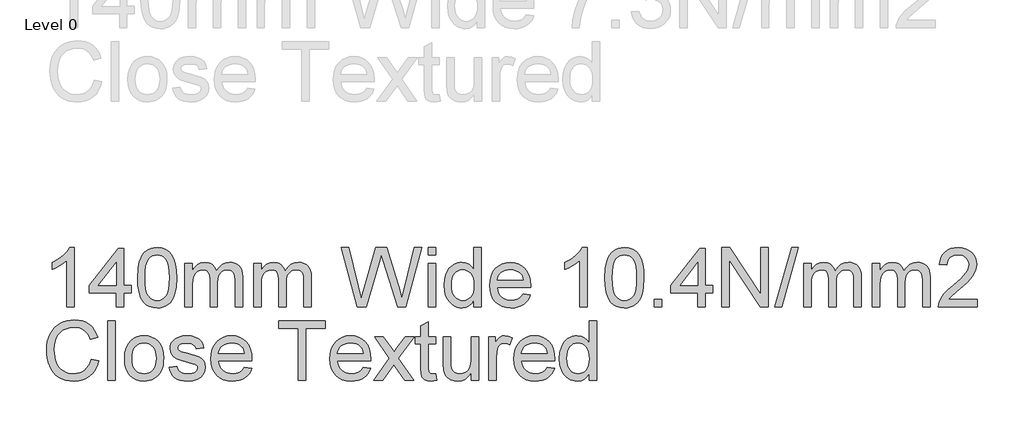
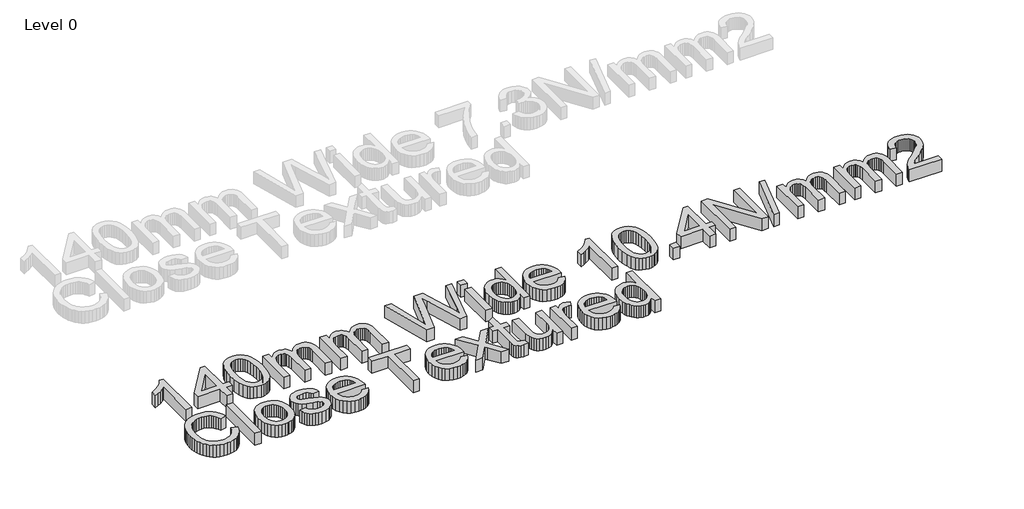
# One storey, part 8 of 14: 1 proxy.
"""IFC4 building model written with IfcOpenShell, lengths in millimetres."""

from ifc_helpers import new_model, si_unit, origin, origin_with_axes, place, context, project, spatial, polyline, outline, extrude, element, save

model = new_model("IFC4")

# Units and contexts
model_context = context("Model", 3, world=origin())
ifc_project = project(units=[si_unit("LENGTHUNIT", "METRE", prefix="MILLI")], contexts=[model_context])

# Site, building, storey
site = spatial("IfcSite", under=ifc_project)
building = spatial("IfcBuilding", under=site)
storey = spatial("IfcBuildingStorey", under=building, Name="Level 0", Elevation=0.0)

# Proxy
placement = place(None, origin())
element("IfcBuildingElementProxy", 1, Name="600mm Arial", ObjectType="600mm Arial", at=placement, inside=storey, context=model_context, shape_type="SweptSolid", body=[
    extrude(outline(polyline([(-13562.7740855, 11585.9110695), (-13636.6202394, 11585.9110695), (-13636.6202394, 12046.2956849), (-13667.4495663, 12021.3617907), (-13706.5721625, 11996.4639541), (-13747.641874, 11974.7031368), (-13784.3125471, 11959.1803003), (-13784.3125471, 12028.9879926), (-13726.313749, 12060.5384734), (-13676.0673548, 12098.0745311), (-13636.4579798, 12137.9903964), (-13610.3702394, 12176.6803003), (-13562.7740855, 12176.6803003), (-13562.7740855, 11585.9110695)])), origin_with_axes(), (0.0, 0.0, 1.0), 150.0),
    extrude(outline(polyline([(-13147.3894701, 11585.9110695), (-13147.3894701, 11724.372608), (-13415.0817778, 11724.372608), (-13415.0817778, 11798.2187618), (-13128.9279317, 12167.4495311), (-13073.5433163, 12167.4495311), (-13073.5433163, 11798.2187618), (-12999.6971625, 11798.2187618), (-12999.6971625, 11724.372608), (-13073.5433163, 11724.372608), (-13073.5433163, 11585.9110695), (-13147.3894701, 11585.9110695)]), holes=[polyline([(-13147.3894701, 11798.2187618), (-13147.3894701, 12026.3918387), (-13324.2163932, 11798.2187618), (-13147.3894701, 11798.2187618)])]), origin_with_axes(), (0.0, 0.0, 1.0), 150.0),
    extrude(outline(polyline([(-12935.0817778, 11876.5360695), (-12929.6550951, 11971.0973676), (-12922.8717418, 12011.1980286), (-12913.3750471, 12046.5120311), (-12901.2055759, 12077.3278363), (-12886.4038932, 12103.9339061), (-12868.969999, 12126.3302402), (-12848.9038932, 12144.5168387), (-12826.1379677, 12158.5883532), (-12800.6046144, 12168.6394349), (-12772.3038331, 12174.6700839), (-12741.235624, 12176.6803003), (-12695.7308163, 12171.9206849), (-12654.985624, 12157.6418387), (-12620.9111048, 12134.4026561), (-12595.4183163, 12102.7620311), (-12576.1635086, 12062.9903964), (-12560.8029317, 12015.3581849), (-12550.7428355, 11954.8714061), (-12547.3894701, 11876.5360695), (-12552.7620663, 11782.5156368), (-12559.4778115, 11742.5501921), (-12568.8798548, 11707.2812618), (-12580.9546745, 11676.4519349), (-12595.688749, 11649.8053003), (-12613.0820783, 11627.341358), (-12633.1346625, 11609.060108), (-12655.9276312, 11594.8939421), (-12681.5421144, 11584.7752522), (-12709.978112, 11578.7040383), (-12741.235624, 11576.6803003), (-12781.9087009, 11580.1959253), (-12817.9663932, 11590.7428003), (-12849.4087009, 11608.3209253), (-12876.235624, 11632.9303003), (-12901.9808163, 11677.4164782), (-12920.3702394, 11732.8461657), (-12931.4038932, 11799.2193628), (-12935.0817778, 11876.5360695)]), holes=[polyline([(-12861.235624, 11876.6803003), (-12859.0721625, 11812.4840863), (-12852.5817778, 11760.5204445), (-12841.7644701, 11720.7893748), (-12826.6202394, 11693.2908772), (-12808.3029317, 11674.5814421), (-12787.9663932, 11661.2175599), (-12765.610624, 11653.1992306), (-12741.235624, 11650.5264541), (-12716.860624, 11653.208245), (-12694.5048548, 11661.2536176), (-12674.1683163, 11674.6625719), (-12655.8510086, 11693.435108), (-12640.7067778, 11720.9786777), (-12629.8894701, 11760.700733), (-12623.3990855, 11812.6012738), (-12621.235624, 11876.6803003), (-12623.3269701, 11939.1772955), (-12629.6010086, 11990.2259734), (-12640.0577394, 12029.8263339), (-12654.6971625, 12057.9783772), (-12672.7079798, 12077.6027762), (-12693.2788932, 12091.6202041), (-12716.4099028, 12100.0306609), (-12742.1010086, 12102.8341464), (-12766.3498067, 12100.3641945), (-12788.3269701, 12092.9543387), (-12808.032499, 12080.6045791), (-12825.4663932, 12063.3149157), (-12841.1154317, 12032.6658772), (-12852.2933163, 11991.3437618), (-12859.0000471, 11939.3485695), (-12861.235624, 11876.6803003)])]), origin_with_axes(), (0.0, 0.0, 1.0), 150.0),
    extrude(outline(polyline([(-12464.3125471, 11585.9110695), (-12464.3125471, 12019.7572234), (-12390.4663932, 12019.7572234), (-12390.4663932, 11948.3629926), (-12368.2548548, 11981.1574637), (-12339.6971625, 12006.8485695), (-12305.766874, 12023.4531368), (-12267.4375471, 12028.9879926), (-12226.3678355, 12023.3449637), (-12208.8888692, 12016.2911777), (-12193.4471625, 12006.4158772), (-12168.8558163, 11979.3185214), (-12152.7740855, 11943.1706849), (-12125.8570182, 11980.715757), (-12095.1538932, 12007.5336657), (-12060.6647105, 12023.6244109), (-12022.3894701, 12028.9879926), (-11992.8266697, 12026.7569229), (-11966.8786528, 12020.0637137), (-11944.5454197, 12008.9083652), (-11925.8269701, 11993.2908772), (-11911.0297947, 11973.0309613), (-11900.4603836, 11947.9483291), (-11894.118737, 11918.0429806), (-11892.0048548, 11883.3149157), (-11892.0048548, 11585.9110695), (-11965.8510086, 11585.9110695), (-11965.8510086, 11851.5841464), (-11967.563749, 11888.4170791), (-11972.7019701, 11913.2428003), (-11982.329374, 11930.2440022), (-11997.5096625, 11943.6033772), (-12017.0349028, 11952.2572234), (-12039.6971625, 11955.1418387), (-12060.6241456, 11953.293882), (-12079.7031721, 11947.7500118), (-12096.9342418, 11938.5102282), (-12112.3173548, 11925.5745311), (-12124.9690976, 11908.5643147), (-12134.0060567, 11887.1009734), (-12139.4282322, 11861.184507), (-12141.235624, 11830.8149157), (-12141.235624, 11585.9110695), (-12215.0817778, 11585.9110695), (-12215.0817778, 11859.8053003), (-12219.3546144, 11901.560108), (-12232.173124, 11931.3437618), (-12242.0844822, 11941.7554205), (-12254.7272105, 11949.1923195), (-12270.1013091, 11953.6544589), (-12288.2067778, 11955.1418387), (-12316.6562971, 11951.1754926), (-12342.8702394, 11939.2764541), (-12364.5048548, 11919.7331849), (-12379.2163932, 11892.8341464), (-12387.6538932, 11855.5144349), (-12390.4663932, 11804.7091464), (-12390.4663932, 11585.9110695), (-12464.3125471, 11585.9110695)])), origin_with_axes(), (0.0, 0.0, 1.0), 150.0),
    extrude(outline(polyline([(-11781.235624, 11585.9110695), (-11781.235624, 12019.7572234), (-11707.3894701, 12019.7572234), (-11707.3894701, 11948.3629926), (-11685.1779317, 11981.1574637), (-11656.6202394, 12006.8485695), (-11622.6899509, 12023.4531368), (-11584.360624, 12028.9879926), (-11543.2909125, 12023.3449637), (-11525.8119461, 12016.2911777), (-11510.3702394, 12006.4158772), (-11485.7788932, 11979.3185214), (-11469.6971625, 11943.1706849), (-11442.7800951, 11980.715757), (-11412.0769701, 12007.5336657), (-11377.5877875, 12023.6244109), (-11339.3125471, 12028.9879926), (-11309.7497466, 12026.7569229), (-11283.8017298, 12020.0637137), (-11261.4684966, 12008.9083652), (-11242.7500471, 11993.2908772), (-11227.9528716, 11973.0309613), (-11217.3834605, 11947.9483291), (-11211.0418139, 11918.0429806), (-11208.9279317, 11883.3149157), (-11208.9279317, 11585.9110695), (-11282.7740855, 11585.9110695), (-11282.7740855, 11851.5841464), (-11284.4868259, 11888.4170791), (-11289.6250471, 11913.2428003), (-11299.2524509, 11930.2440022), (-11314.4327394, 11943.6033772), (-11333.9579798, 11952.2572234), (-11356.6202394, 11955.1418387), (-11377.5472226, 11953.293882), (-11396.626249, 11947.7500118), (-11413.8573187, 11938.5102282), (-11429.2404317, 11925.5745311), (-11441.8921745, 11908.5643147), (-11450.9291336, 11887.1009734), (-11456.3513091, 11861.184507), (-11458.1587009, 11830.8149157), (-11458.1587009, 11585.9110695), (-11532.0048548, 11585.9110695), (-11532.0048548, 11859.8053003), (-11536.2776913, 11901.560108), (-11549.0962009, 11931.3437618), (-11559.0075591, 11941.7554205), (-11571.6502875, 11949.1923195), (-11587.024386, 11953.6544589), (-11605.1298548, 11955.1418387), (-11633.579374, 11951.1754926), (-11659.7933163, 11939.2764541), (-11681.4279317, 11919.7331849), (-11696.1394701, 11892.8341464), (-11704.5769701, 11855.5144349), (-11707.3894701, 11804.7091464), (-11707.3894701, 11585.9110695), (-11781.235624, 11585.9110695)])), origin_with_axes(), (0.0, 0.0, 1.0), 150.0),
    extrude(outline(polyline([(-10752.4375471, 11585.9110695), (-10913.5433163, 12176.6803003), (-10837.3894701, 12176.6803003), (-10743.9279317, 11788.4110695), (-10715.0817778, 11668.5553003), (-10684.2163932, 11774.5649157), (-10567.1010086, 12176.6803003), (-10457.3413932, 12176.6803003), (-10372.2452394, 11885.1899157), (-10335.7909125, 11777.0168387), (-10308.9279317, 11668.5553003), (-10280.9471625, 11784.9495311), (-10186.6202394, 12176.6803003), (-10110.4663932, 12176.6803003), (-10271.7163932, 11585.9110695), (-10350.610624, 11585.9110695), (-10492.2452394, 12041.6803003), (-10512.0048548, 12105.2860695), (-10534.2163932, 12028.6995311), (-10663.3029317, 11585.9110695), (-10752.4375471, 11585.9110695)])), origin_with_axes(), (0.0, 0.0, 1.0), 150.0),
    extrude(outline(polyline([(-10045.8510086, 11585.9110695), (-10045.8510086, 12019.7572234), (-9972.0048548, 12019.7572234), (-9972.0048548, 11585.9110695), (-10045.8510086, 11585.9110695)])), origin_with_axes(), (0.0, 0.0, 1.0), 150.0),
    extrude(outline(polyline([(-10045.8510086, 12102.8341464), (-10045.8510086, 12176.6803003), (-9972.0048548, 12176.6803003), (-9972.0048548, 12102.8341464), (-10045.8510086, 12102.8341464)])), origin_with_axes(), (0.0, 0.0, 1.0), 150.0),
    extrude(outline(polyline([(-9593.5433163, 11585.9110695), (-9593.5433163, 11655.5745311), (-9615.6376673, 11621.0583051), (-9642.4014894, 11596.403858), (-9673.8347826, 11581.6111897), (-9709.9375471, 11576.6803003), (-9734.3125471, 11578.4651561), (-9757.6779317, 11583.8197234), (-9780.0337009, 11592.7440022), (-9801.3798548, 11605.2379926), (-9821.0493259, 11620.927596), (-9838.3750471, 11639.4387137), (-9853.3570182, 11660.771346), (-9865.9952394, 11684.9254926), (-9876.0282923, 11711.4414181), (-9883.1947586, 11739.8593868), (-9888.9279317, 11802.4014541), (-9883.6454798, 11864.1682811), (-9867.798124, 11919.9495311), (-9855.9171144, 11944.8022955), (-9841.4038932, 11966.5721272), (-9824.2584605, 11985.2590262), (-9804.4808163, 12000.8629926), (-9782.7695783, 12013.1676801), (-9759.8233644, 12021.9567426), (-9735.6421745, 12027.2301801), (-9710.2260086, 12028.9879926), (-9674.0962009, 12023.9579445), (-9642.1490855, 12008.8678003), (-9615.0697586, 11985.7367907), (-9593.5433163, 11956.5841464), (-9593.5433163, 12176.6803003), (-9519.6971625, 12176.6803003), (-9519.6971625, 11585.9110695), (-9593.5433163, 11585.9110695)]), holes=[polyline([(-9815.0817778, 11802.6899157), (-9812.9994461, 11766.88012), (-9806.7524509, 11735.8930407), (-9796.3407923, 11709.7286777), (-9781.7644701, 11688.3870311), (-9764.3576192, 11671.8230286), (-9745.454374, 11659.9915984), (-9725.0547346, 11652.8927402), (-9703.1587009, 11650.5264541), (-9681.1590014, 11652.7845671), (-9660.8810567, 11659.5589061), (-9642.3248668, 11670.849471), (-9625.4904317, 11686.6562618), (-9611.5135687, 11707.1054806), (-9601.5300951, 11732.3233291), (-9595.540011, 11762.3098075), (-9593.5433163, 11797.0649157), (-9595.5760687, 11835.168882), (-9601.6743259, 11867.8461657), (-9611.8380879, 11895.0967666), (-9626.0673548, 11916.9206849), (-9643.2713812, 11933.6424397), (-9662.3594221, 11945.5865503), (-9683.3314774, 11952.7530166), (-9706.1875471, 11955.1418387), (-9728.516273, 11952.8476681), (-9748.9159125, 11945.9651561), (-9767.3864653, 11934.4943027), (-9783.9279317, 11918.435108), (-9797.5577394, 11897.4360094), (-9807.2933163, 11871.1454445), (-9813.1346625, 11839.5634133), (-9815.0817778, 11802.6899157)])]), origin_with_axes(), (0.0, 0.0, 1.0), 150.0),
    extrude(outline(polyline([(-9105.1779317, 11715.1418387), (-9032.7740855, 11705.9110695), (-9043.8753476, 11676.9116705), (-9058.8618259, 11651.3557811), (-9077.7335206, 11629.2434012), (-9100.4904317, 11610.5745311), (-9126.8981841, 11595.7458051), (-9156.7224028, 11585.153858), (-9189.9630879, 11578.7986897), (-9226.6202394, 11576.6803003), (-9272.4405519, 11580.3356488), (-9313.266874, 11591.3016945), (-9349.0992057, 11609.5784373), (-9379.9375471, 11635.1658772), (-9404.736225, 11667.3518748), (-9422.4495663, 11705.4242907), (-9433.0775711, 11749.3831248), (-9436.6202394, 11799.2283772), (-9433.0415134, 11850.7638339), (-9422.3053355, 11896.1875118), (-9404.4117057, 11935.4994109), (-9379.360624, 11968.6995311), (-9348.6034125, 11995.075733), (-9313.5913932, 12013.9158772), (-9274.3245663, 12025.2199637), (-9230.8029317, 12028.9879926), (-9188.6830399, 12025.2289782), (-9150.5925951, 12013.9519349), (-9116.5315976, 11995.1568628), (-9086.5000471, 11968.8437618), (-9061.9853235, 11935.715757), (-9044.4748067, 11896.4759734), (-9033.9684966, 11851.1244109), (-9030.4663932, 11799.6610695), (-9030.8990855, 11779.7572234), (-9362.7740855, 11779.7572234), (-9358.4967418, 11750.2890743), (-9349.9916336, 11724.4807811), (-9337.258761, 11702.3323436), (-9320.298124, 11683.8437618), (-9300.0472226, 11669.2674397), (-9277.4435567, 11658.8557811), (-9252.4871264, 11652.6087859), (-9225.1779317, 11650.5264541), (-9185.8750471, 11654.3846272), (-9152.7740855, 11665.9591464), (-9125.8750471, 11685.9711657), (-9105.1779317, 11715.1418387)]), holes=[polyline([(-9362.7740855, 11853.6033772), (-9104.3125471, 11853.6033772), (-9114.3005278, 11892.6178003), (-9122.891273, 11907.9603484), (-9133.8798548, 11920.5264541), (-9154.0180759, 11935.6706849), (-9176.9327394, 11946.4879926), (-9202.6238451, 11952.9783772), (-9231.0913932, 11955.1418387), (-9257.0574389, 11953.4155767), (-9280.8690375, 11948.2367907), (-9302.5261889, 11939.6054806), (-9322.0288932, 11927.5216464), (-9338.3945783, 11912.5441825), (-9350.6406721, 11895.231983), (-9358.7671745, 11875.5850479), (-9362.7740855, 11853.6033772)])]), origin_with_axes(), (0.0, 0.0, 1.0), 150.0),
    extrude(outline(polyline([(-8467.3894701, 11585.9110695), (-8541.235624, 11585.9110695), (-8541.235624, 12046.2956849), (-8572.0649509, 12021.3617907), (-8611.1875471, 11996.4639541), (-8652.2572586, 11974.7031368), (-8688.9279317, 11959.1803003), (-8688.9279317, 12028.9879926), (-8630.9291336, 12060.5384734), (-8580.6827394, 12098.0745311), (-8541.0733644, 12137.9903964), (-8514.985624, 12176.6803003), (-8467.3894701, 12176.6803003), (-8467.3894701, 11585.9110695)])), origin_with_axes(), (0.0, 0.0, 1.0), 150.0),
    extrude(outline(polyline([(-8292.0048548, 11876.5360695), (-8286.5781721, 11971.0973676), (-8279.7948187, 12011.1980286), (-8270.298124, 12046.5120311), (-8258.1286528, 12077.3278363), (-8243.3269701, 12103.9339061), (-8225.8930759, 12126.3302402), (-8205.8269701, 12144.5168387), (-8183.0610447, 12158.5883532), (-8157.5276913, 12168.6394349), (-8129.2269101, 12174.6700839), (-8098.1587009, 12176.6803003), (-8052.6538932, 12171.9206849), (-8011.9087009, 12157.6418387), (-7977.8341817, 12134.4026561), (-7952.3413932, 12102.7620311), (-7933.0865855, 12062.9903964), (-7917.7260086, 12015.3581849), (-7907.6659125, 11954.8714061), (-7904.3125471, 11876.5360695), (-7909.6851432, 11782.5156368), (-7916.4008884, 11742.5501921), (-7925.8029317, 11707.2812618), (-7937.8777514, 11676.4519349), (-7952.6118259, 11649.8053003), (-7970.0051552, 11627.341358), (-7990.0577394, 11609.060108), (-8012.8507081, 11594.8939421), (-8038.4651913, 11584.7752522), (-8066.9011889, 11578.7040383), (-8098.1587009, 11576.6803003), (-8138.8317778, 11580.1959253), (-8174.8894701, 11590.7428003), (-8206.3317778, 11608.3209253), (-8233.1587009, 11632.9303003), (-8258.9038932, 11677.4164782), (-8277.2933163, 11732.8461657), (-8288.3269701, 11799.2193628), (-8292.0048548, 11876.5360695)]), holes=[polyline([(-8218.1587009, 11876.6803003), (-8215.9952394, 11812.4840863), (-8209.5048548, 11760.5204445), (-8198.6875471, 11720.7893748), (-8183.5433163, 11693.2908772), (-8165.2260086, 11674.5814421), (-8144.8894701, 11661.2175599), (-8122.5337009, 11653.1992306), (-8098.1587009, 11650.5264541), (-8073.7837009, 11653.208245), (-8051.4279317, 11661.2536176), (-8031.0913932, 11674.6625719), (-8012.7740855, 11693.435108), (-7997.6298548, 11720.9786777), (-7986.8125471, 11760.700733), (-7980.3221625, 11812.6012738), (-7978.1587009, 11876.6803003), (-7980.2500471, 11939.1772955), (-7986.5240855, 11990.2259734), (-7996.9808163, 12029.8263339), (-8011.6202394, 12057.9783772), (-8029.6310567, 12077.6027762), (-8050.2019701, 12091.6202041), (-8073.3329798, 12100.0306609), (-8099.0240855, 12102.8341464), (-8123.2728836, 12100.3641945), (-8145.2500471, 12092.9543387), (-8164.9555759, 12080.6045791), (-8182.3894701, 12063.3149157), (-8198.0385086, 12032.6658772), (-8209.2163932, 11991.3437618), (-8215.923124, 11939.3485695), (-8218.1587009, 11876.6803003)])]), origin_with_axes(), (0.0, 0.0, 1.0), 150.0),
    extrude(outline(polyline([(-7802.7740855, 11585.9110695), (-7802.7740855, 11659.7572234), (-7728.9279317, 11659.7572234), (-7728.9279317, 11585.9110695), (-7802.7740855, 11585.9110695)])), origin_with_axes(), (0.0, 0.0, 1.0), 150.0),
    extrude(outline(polyline([(-7368.9279317, 11585.9110695), (-7368.9279317, 11724.372608), (-7636.6202394, 11724.372608), (-7636.6202394, 11798.2187618), (-7350.4663932, 12167.4495311), (-7295.0817778, 12167.4495311), (-7295.0817778, 11798.2187618), (-7221.235624, 11798.2187618), (-7221.235624, 11724.372608), (-7295.0817778, 11724.372608), (-7295.0817778, 11585.9110695), (-7368.9279317, 11585.9110695)]), holes=[polyline([(-7368.9279317, 11798.2187618), (-7368.9279317, 12026.3918387), (-7545.7548548, 11798.2187618), (-7368.9279317, 11798.2187618)])]), origin_with_axes(), (0.0, 0.0, 1.0), 150.0),
    extrude(outline(polyline([(-7128.9279317, 11585.9110695), (-7128.9279317, 12176.6803003), (-7049.8894701, 12176.6803003), (-6741.235624, 11708.6514541), (-6741.235624, 12176.6803003), (-6667.3894701, 12176.6803003), (-6667.3894701, 11585.9110695), (-6746.4279317, 11585.9110695), (-7055.0817778, 12054.0841464), (-7055.0817778, 11585.9110695), (-7128.9279317, 11585.9110695)])), origin_with_axes(), (0.0, 0.0, 1.0), 150.0),
    extrude(outline(polyline([(-6602.7740855, 11585.9110695), (-6436.6202394, 12176.6803003), (-6369.985624, 12176.6803003), (-6536.1394701, 11585.9110695), (-6602.7740855, 11585.9110695)])), origin_with_axes(), (0.0, 0.0, 1.0), 150.0),
    extrude(outline(polyline([(-6316.6202394, 11585.9110695), (-6316.6202394, 12019.7572234), (-6242.7740855, 12019.7572234), (-6242.7740855, 11948.3629926), (-6220.5625471, 11981.1574637), (-6192.0048548, 12006.8485695), (-6158.0745663, 12023.4531368), (-6119.7452394, 12028.9879926), (-6078.6755278, 12023.3449637), (-6061.1965615, 12016.2911777), (-6045.7548548, 12006.4158772), (-6021.1635086, 11979.3185214), (-6005.0817778, 11943.1706849), (-5978.1647105, 11980.715757), (-5947.4615855, 12007.5336657), (-5912.9724028, 12023.6244109), (-5874.6971625, 12028.9879926), (-5845.134362, 12026.7569229), (-5819.1863451, 12020.0637137), (-5796.853112, 12008.9083652), (-5778.1346625, 11993.2908772), (-5763.337487, 11973.0309613), (-5752.7680759, 11947.9483291), (-5746.4264293, 11918.0429806), (-5744.3125471, 11883.3149157), (-5744.3125471, 11585.9110695), (-5818.1587009, 11585.9110695), (-5818.1587009, 11851.5841464), (-5819.8714413, 11888.4170791), (-5825.0096625, 11913.2428003), (-5834.6370663, 11930.2440022), (-5849.8173548, 11943.6033772), (-5869.3425951, 11952.2572234), (-5892.0048548, 11955.1418387), (-5912.9318379, 11953.293882), (-5932.0108644, 11947.7500118), (-5949.2419341, 11938.5102282), (-5964.6250471, 11925.5745311), (-5977.2767899, 11908.5643147), (-5986.313749, 11887.1009734), (-5991.7359245, 11861.184507), (-5993.5433163, 11830.8149157), (-5993.5433163, 11585.9110695), (-6067.3894701, 11585.9110695), (-6067.3894701, 11859.8053003), (-6071.6623067, 11901.560108), (-6084.4808163, 11931.3437618), (-6094.3921745, 11941.7554205), (-6107.0349028, 11949.1923195), (-6122.4090014, 11953.6544589), (-6140.5144701, 11955.1418387), (-6168.9639894, 11951.1754926), (-6195.1779317, 11939.2764541), (-6216.8125471, 11919.7331849), (-6231.5240855, 11892.8341464), (-6239.9615855, 11855.5144349), (-6242.7740855, 11804.7091464), (-6242.7740855, 11585.9110695), (-6316.6202394, 11585.9110695)])), origin_with_axes(), (0.0, 0.0, 1.0), 150.0),
    extrude(outline(polyline([(-5633.5433163, 11585.9110695), (-5633.5433163, 12019.7572234), (-5559.6971625, 12019.7572234), (-5559.6971625, 11948.3629926), (-5537.485624, 11981.1574637), (-5508.9279317, 12006.8485695), (-5474.9976432, 12023.4531368), (-5436.6683163, 12028.9879926), (-5395.5986048, 12023.3449637), (-5378.1196384, 12016.2911777), (-5362.6779317, 12006.4158772), (-5338.0865855, 11979.3185214), (-5322.0048548, 11943.1706849), (-5295.0877875, 11980.715757), (-5264.3846625, 12007.5336657), (-5229.8954798, 12023.6244109), (-5191.6202394, 12028.9879926), (-5162.0574389, 12026.7569229), (-5136.1094221, 12020.0637137), (-5113.7761889, 12008.9083652), (-5095.0577394, 11993.2908772), (-5080.2605639, 11973.0309613), (-5069.6911528, 11947.9483291), (-5063.3495062, 11918.0429806), (-5061.235624, 11883.3149157), (-5061.235624, 11585.9110695), (-5135.0817778, 11585.9110695), (-5135.0817778, 11851.5841464), (-5136.7945182, 11888.4170791), (-5141.9327394, 11913.2428003), (-5151.5601432, 11930.2440022), (-5166.7404317, 11943.6033772), (-5186.2656721, 11952.2572234), (-5208.9279317, 11955.1418387), (-5229.8549149, 11953.293882), (-5248.9339413, 11947.7500118), (-5266.165011, 11938.5102282), (-5281.548124, 11925.5745311), (-5294.1998668, 11908.5643147), (-5303.2368259, 11887.1009734), (-5308.6590014, 11861.184507), (-5310.4663932, 11830.8149157), (-5310.4663932, 11585.9110695), (-5384.3125471, 11585.9110695), (-5384.3125471, 11859.8053003), (-5388.5853836, 11901.560108), (-5401.4038932, 11931.3437618), (-5411.3152514, 11941.7554205), (-5423.9579798, 11949.1923195), (-5439.3320783, 11953.6544589), (-5457.4375471, 11955.1418387), (-5485.8870663, 11951.1754926), (-5512.1010086, 11939.2764541), (-5533.735624, 11919.7331849), (-5548.4471625, 11892.8341464), (-5556.8846625, 11855.5144349), (-5559.6971625, 11804.7091464), (-5559.6971625, 11585.9110695), (-5633.5433163, 11585.9110695)])), origin_with_axes(), (0.0, 0.0, 1.0), 150.0),
    extrude(outline(polyline([(-4590.4663932, 11659.7572234), (-4590.4663932, 11585.9110695), (-4978.1587009, 11585.9110695), (-4976.5361048, 11611.9086657), (-4970.2260086, 11636.8245311), (-4952.016874, 11676.6141945), (-4925.3702394, 11715.2139541), (-4886.8245663, 11755.6165984), (-4832.9183163, 11800.8149157), (-4753.2308163, 11871.5961657), (-4705.4183163, 11923.8437618), (-4691.4730038, 11945.1899157), (-4681.5120663, 11966.247608), (-4675.5355038, 11987.0168387), (-4673.5433163, 12007.497608), (-4675.4228235, 12026.7659373), (-4681.0613451, 12044.4747714), (-4690.4588812, 12060.6241104), (-4703.6154317, 12075.2139541), (-4719.8008283, 12087.2977883), (-4738.2849028, 12095.9290984), (-4759.0676552, 12101.1078844), (-4782.1490855, 12102.8341464), (-4806.4654918, 12101.1484493), (-4828.2127875, 12096.091358), (-4847.3909726, 12087.6628724), (-4864.0000471, 12075.8629926), (-4877.4360447, 12061.0883532), (-4887.094999, 12043.7355887), (-4892.9769101, 12023.8046993), (-4895.0817778, 12001.2956849), (-4968.9279317, 12010.5264541), (-4962.5772706, 12048.6484493), (-4951.0252875, 12081.9567426), (-4934.2719822, 12110.4513339), (-4912.3173548, 12134.1322234), (-4885.6662129, 12152.747007), (-4854.8233644, 12166.0432811), (-4819.7888091, 12174.0210455), (-4780.5625471, 12176.6803003), (-4740.9847226, 12173.7235695), (-4705.7608644, 12164.8533772), (-4674.8909726, 12150.0697234), (-4648.3750471, 12129.372608), (-4627.0784726, 12104.294483), (-4611.8666336, 12076.3678003), (-4602.7395302, 12045.5925599), (-4599.6971625, 12011.9687618), (-4602.9784125, 11976.6502522), (-4612.8221625, 11941.9447234), (-4630.2921144, 11906.6442426), (-4656.4519701, 11869.5408772), (-4698.1526913, 11825.2440022), (-4762.2452394, 11768.3629926), (-4847.1971625, 11697.3293387), (-4880.5144701, 11659.7572234), (-4590.4663932, 11659.7572234)])), origin_with_axes(), (0.0, 0.0, 1.0), 150.0),
    extrude(outline(polyline([(-13396.6202394, 11066.6803003), (-13322.7740855, 11047.6418387), (-13337.3864653, 11001.7178604), (-13356.8486048, 10961.5901561), (-13381.1605038, 10927.2587258), (-13410.3221625, 10898.7235695), (-13443.6755278, 10876.2911777), (-13480.5625471, 10860.2680407), (-13520.9832201, 10850.6541585), (-13564.9375471, 10847.4495311), (-13609.9690976, 10849.8744109), (-13650.5925951, 10857.1490503), (-13686.8080399, 10869.2734493), (-13718.6154317, 10886.247608), (-13746.4519701, 10907.8191224), (-13770.7548548, 10933.7355887), (-13791.5240855, 10963.997007), (-13808.7596625, 10998.6033772), (-13822.2948187, 11036.0583051), (-13831.9627875, 11074.8653964), (-13837.7635687, 11115.0246512), (-13839.6971625, 11156.5360695), (-13837.5111649, 11201.0763339), (-13830.9531721, 11242.6778964), (-13820.0231841, 11281.340757), (-13804.7212009, 11317.0649157), (-13785.3897706, 11349.2599277), (-13762.3714413, 11377.3353484), (-13735.6662129, 11401.2911777), (-13705.2740855, 11421.1274157), (-13672.2272105, 11436.6818027), (-13637.5577394, 11447.7920791), (-13601.2656721, 11454.458245), (-13563.3510086, 11456.6803003), (-13521.1139293, 11453.8046993), (-13482.3834605, 11445.1778964), (-13447.1596024, 11430.7998916), (-13415.4423548, 11410.6706849), (-13387.7545543, 11385.3221272), (-13364.6190375, 11355.2860695), (-13346.0358043, 11320.5625118), (-13332.0048548, 11281.1514541), (-13405.8510086, 11263.5553003), (-13417.4796144, 11292.5952642), (-13431.4519701, 11317.4074637), (-13447.7680759, 11337.9918988), (-13466.4279317, 11354.3485695), (-13487.5397105, 11366.8110094), (-13511.2115855, 11375.7127522), (-13537.4435567, 11381.0537979), (-13566.235624, 11382.8341464), (-13599.3636288, 11380.8599878), (-13629.6611048, 11374.9375118), (-13657.1280519, 11365.0667186), (-13681.7644701, 11351.247608), (-13703.259362, 11334.1021753), (-13721.3017298, 11314.2524157), (-13735.8915735, 11291.6983291), (-13747.0288932, 11266.4399157), (-13761.1454798, 11212.3894349), (-13765.8510086, 11156.6803003), (-13760.2800951, 11088.4591464), (-13753.3164533, 11057.810108), (-13743.5673548, 11029.4687618), (-13730.8750471, 11003.9985094), (-13715.0817778, 10981.9627522), (-13696.1875471, 10963.3614902), (-13674.1923548, 10948.1947234), (-13650.1644101, 10936.426394), (-13625.1719221, 10928.0204445), (-13599.2148908, 10922.9768748), (-13572.2933163, 10921.2956849), (-13540.1884485, 10923.5853484), (-13510.6526913, 10930.4543387), (-13483.6860447, 10941.9026561), (-13459.2885086, 10957.9303003), (-13438.0370062, 10978.4651561), (-13420.5084605, 11003.435108), (-13406.7028716, 11032.8401561), (-13396.6202394, 11066.6803003)])), origin_with_axes(), (0.0, 0.0, 1.0), 150.0),
    extrude(outline(polyline([(-13230.4663932, 10856.6803003), (-13230.4663932, 11447.4495311), (-13156.6202394, 11447.4495311), (-13156.6202394, 10856.6803003), (-13230.4663932, 10856.6803003)])), origin_with_axes(), (0.0, 0.0, 1.0), 150.0),
    extrude(outline(polyline([(-13064.3125471, 11073.6033772), (-13060.3191576, 11129.7902762), (-13048.3389894, 11178.2067426), (-13028.3720423, 11218.8527762), (-13000.4183163, 11251.7283772), (-12972.2752875, 11272.7409974), (-12941.2115855, 11287.7500118), (-12907.2272105, 11296.7554205), (-12870.3221625, 11299.7572234), (-12829.5814774, 11296.1018748), (-12792.7440375, 11285.1358291), (-12759.8098427, 11266.8590863), (-12730.7788932, 11241.2716464), (-12707.0844822, 11209.238894), (-12690.1599028, 11171.6262137), (-12680.0051552, 11128.4336056), (-12676.6202394, 11079.6610695), (-12678.1166336, 11040.1328243), (-12682.6058163, 11005.0577041), (-12690.0877875, 10974.4357089), (-12700.5625471, 10948.2668387), (-12713.899386, 10925.6631729), (-12729.9675951, 10905.7367907), (-12748.7671745, 10888.4876921), (-12770.298124, 10873.9158772), (-12793.7221024, 10862.3368508), (-12818.2007682, 10854.0661176), (-12843.7341216, 10849.1036777), (-12870.3221625, 10847.4495311), (-12911.6577995, 10851.091358), (-12948.8377875, 10862.0168387), (-12981.8621264, 10880.2259734), (-13010.7308163, 10905.7187618), (-13034.1728235, 10938.0625118), (-13050.9171144, 10976.8245311), (-13060.9636889, 11022.0048195), (-13064.3125471, 11073.6033772)]), holes=[polyline([(-12990.4663932, 11073.747608), (-12988.329975, 11037.9287979), (-12981.9207201, 11006.9146753), (-12971.2386288, 10980.7052402), (-12956.2837009, 10959.3004926), (-12938.0925951, 10942.6733892), (-12917.7019701, 10930.7968868), (-12895.1118259, 10923.6709854), (-12870.3221625, 10921.2956849), (-12845.6587009, 10923.684507), (-12823.1587009, 10930.8509734), (-12802.8221625, 10942.7950839), (-12784.6490855, 10959.5168387), (-12769.6941576, 10981.1334253), (-12759.0120663, 11007.7620311), (-12752.6028115, 11039.4026561), (-12750.4663932, 11076.0553003), (-12752.6163331, 11110.7382931), (-12759.0661528, 11140.9411176), (-12769.8158524, 11166.6637738), (-12784.8654317, 11187.9062618), (-12803.1061168, 11204.5333652), (-12823.4291336, 11216.4098676), (-12845.8344822, 11223.535769), (-12870.3221625, 11225.9110695), (-12895.1118259, 11223.5447835), (-12917.7019701, 11216.4459253), (-12938.0925951, 11204.614495), (-12956.2837009, 11188.0504926), (-12971.2386288, 11166.708846), (-12981.9207201, 11140.544483), (-12988.329975, 11109.5574036), (-12990.4663932, 11073.747608)])]), origin_with_axes(), (0.0, 0.0, 1.0), 150.0),
    extrude(outline(polyline([(-12621.235624, 10985.9110695), (-12547.3894701, 10995.1418387), (-12542.9273307, 10978.3028964), (-12535.7428355, 10963.5553003), (-12525.8359846, 10950.8990503), (-12513.2067778, 10940.3341464), (-12497.8191576, 10932.0048195), (-12479.6370663, 10926.0553003), (-12434.8894701, 10921.2956849), (-12390.6827394, 10925.6586657), (-12373.501249, 10931.1123916), (-12359.6010086, 10938.747608), (-12341.2115855, 10957.7139541), (-12335.0817778, 10979.7091464), (-12336.6232442, 10989.6790984), (-12341.2476432, 10998.5312618), (-12359.7452394, 11012.8822234), (-12387.4014894, 11022.2572234), (-12435.7548548, 11033.9399157), (-12503.1466817, 11053.4290984), (-12546.9567778, 11070.0697234), (-12575.0998067, 11088.2247714), (-12595.4904317, 11112.2572234), (-12607.876249, 11140.6346272), (-12612.0048548, 11171.8245311), (-12608.6875471, 11200.4363099), (-12598.735624, 11226.8485695), (-12583.0505278, 11250.0156368), (-12562.5337009, 11268.8918387), (-12542.1430759, 11280.7728484), (-12515.5865855, 11290.7428003), (-12484.8834605, 11297.5036176), (-12452.0529317, 11299.7572234), (-12403.9880278, 11296.1334253), (-12362.1971625, 11285.2620311), (-12328.5913932, 11268.2067426), (-12305.0817778, 11246.0312618), (-12289.5048548, 11217.0949637), (-12279.6971625, 11179.7572234), (-12353.5433163, 11170.5264541), (-12362.8642298, 11193.7656368), (-12381.3077394, 11211.2716464), (-12409.0541336, 11222.2512137), (-12446.2837009, 11225.9110695), (-12488.6875471, 11222.4134734), (-12516.9567778, 11211.9206849), (-12532.8582201, 11196.7764541), (-12538.1587009, 11179.3245311), (-12535.9591817, 11167.966358), (-12529.360624, 11157.8341464), (-12518.0745663, 11148.7836657), (-12501.8125471, 11141.5360695), (-12438.2067778, 11125.8149157), (-12329.8173548, 11091.0553003), (-12301.1875471, 11074.4327041), (-12279.4808163, 11051.6803003), (-12265.7969221, 11022.7259734), (-12261.235624, 10987.497608), (-12266.5901913, 10951.0793387), (-12282.6538932, 10916.8245311), (-12308.813749, 10887.419483), (-12344.4567778, 10865.5504926), (-12387.5096625, 10851.9747714), (-12435.8990855, 10847.4495311), (-12475.6436769, 10849.6310214), (-12510.3582201, 10856.1754926), (-12540.0427153, 10867.0829445), (-12564.6971625, 10882.3533772), (-12584.8353836, 10901.9146753), (-12600.9712009, 10925.6947234), (-12613.1046144, 10953.6935214), (-12621.235624, 10985.9110695)])), origin_with_axes(), (0.0, 0.0, 1.0), 150.0),
    extrude(outline(polyline([(-11874.4087009, 10985.9110695), (-11802.0048548, 10976.6803003), (-11813.1061168, 10947.6809012), (-11828.0925951, 10922.1250118), (-11846.9642899, 10900.012632), (-11869.7212009, 10881.3437618), (-11896.1289533, 10866.5150359), (-11925.9531721, 10855.9230887), (-11959.1938572, 10849.5679205), (-11995.8510086, 10847.4495311), (-12041.6713211, 10851.1048796), (-12082.4976432, 10862.0709253), (-12118.329975, 10880.3476681), (-12149.1683163, 10905.935108), (-12173.9669942, 10938.1211056), (-12191.6803355, 10976.1935214), (-12202.3083403, 11020.1523556), (-12205.8510086, 11069.997608), (-12202.2722826, 11121.5330647), (-12191.5361048, 11166.9567426), (-12173.642475, 11206.2686416), (-12148.5913932, 11239.4687618), (-12117.8341817, 11265.8449637), (-12082.8221625, 11284.685108), (-12043.5553355, 11295.9891945), (-12000.0337009, 11299.7572234), (-11957.9138091, 11295.9982089), (-11919.8233644, 11284.7211657), (-11885.7623668, 11265.9260936), (-11855.7308163, 11239.6129926), (-11831.2160927, 11206.4849878), (-11813.7055759, 11167.2452041), (-11803.1992658, 11121.8936416), (-11799.6971625, 11070.4303003), (-11800.1298548, 11050.5264541), (-12132.0048548, 11050.5264541), (-12127.727511, 11021.0583051), (-12119.2224028, 10995.2500118), (-12106.4895302, 10973.1015743), (-12089.5288932, 10954.6129926), (-12069.2779918, 10940.0366705), (-12046.6743259, 10929.6250118), (-12021.7178956, 10923.3780166), (-11994.4087009, 10921.2956849), (-11955.1058163, 10925.153858), (-11922.0048548, 10936.7283772), (-11895.1058163, 10956.7403964), (-11874.4087009, 10985.9110695)]), holes=[polyline([(-12132.0048548, 11124.372608), (-11873.5433163, 11124.372608), (-11883.5312971, 11163.3870311), (-11892.1220423, 11178.7295791), (-11903.110624, 11191.2956849), (-11923.2488451, 11206.4399157), (-11946.1635086, 11217.2572234), (-11971.8546144, 11223.747608), (-12000.3221625, 11225.9110695), (-12026.2882081, 11224.1848075), (-12050.0998067, 11219.0060214), (-12071.7569581, 11210.3747113), (-12091.2596625, 11198.2908772), (-12107.6253476, 11183.3134133), (-12119.8714413, 11166.0012137), (-12127.9979437, 11146.3542786), (-12132.0048548, 11124.372608)])]), origin_with_axes(), (0.0, 0.0, 1.0), 150.0),
    extrude(outline(polyline([(-11338.1587009, 10856.6803003), (-11338.1587009, 11373.6033772), (-11532.0048548, 11373.6033772), (-11532.0048548, 11447.4495311), (-11070.4663932, 11447.4495311), (-11070.4663932, 11373.6033772), (-11264.3125471, 11373.6033772), (-11264.3125471, 10856.6803003), (-11338.1587009, 10856.6803003)])), origin_with_axes(), (0.0, 0.0, 1.0), 150.0),
    extrude(outline(polyline([(-10692.8702394, 10985.9110695), (-10620.4663932, 10976.6803003), (-10631.5676552, 10947.6809012), (-10646.5541336, 10922.1250118), (-10665.4258283, 10900.012632), (-10688.1827394, 10881.3437618), (-10714.5904918, 10866.5150359), (-10744.4147105, 10855.9230887), (-10777.6553956, 10849.5679205), (-10814.3125471, 10847.4495311), (-10860.1328596, 10851.1048796), (-10900.9591817, 10862.0709253), (-10936.7915134, 10880.3476681), (-10967.6298548, 10905.935108), (-10992.4285326, 10938.1211056), (-11010.141874, 10976.1935214), (-11020.7698788, 11020.1523556), (-11024.3125471, 11069.997608), (-11020.7338211, 11121.5330647), (-11009.9976432, 11166.9567426), (-10992.1040134, 11206.2686416), (-10967.0529317, 11239.4687618), (-10936.2957201, 11265.8449637), (-10901.2837009, 11284.685108), (-10862.016874, 11295.9891945), (-10818.4952394, 11299.7572234), (-10776.3753476, 11295.9982089), (-10738.2849028, 11284.7211657), (-10704.2239052, 11265.9260936), (-10674.1923548, 11239.6129926), (-10649.6776312, 11206.4849878), (-10632.1671144, 11167.2452041), (-10621.6608043, 11121.8936416), (-10618.1587009, 11070.4303003), (-10618.5913932, 11050.5264541), (-10950.4663932, 11050.5264541), (-10946.1890495, 11021.0583051), (-10937.6839413, 10995.2500118), (-10924.9510687, 10973.1015743), (-10907.9904317, 10954.6129926), (-10887.7395302, 10940.0366705), (-10865.1358644, 10929.6250118), (-10840.1794341, 10923.3780166), (-10812.8702394, 10921.2956849), (-10773.5673548, 10925.153858), (-10740.4663932, 10936.7283772), (-10713.5673548, 10956.7403964), (-10692.8702394, 10985.9110695)]), holes=[polyline([(-10950.4663932, 11124.372608), (-10692.0048548, 11124.372608), (-10701.9928355, 11163.3870311), (-10710.5835807, 11178.7295791), (-10721.5721625, 11191.2956849), (-10741.7103836, 11206.4399157), (-10764.6250471, 11217.2572234), (-10790.3161528, 11223.747608), (-10818.7837009, 11225.9110695), (-10844.7497466, 11224.1848075), (-10868.5613451, 11219.0060214), (-10890.2184966, 11210.3747113), (-10909.7212009, 11198.2908772), (-10926.086886, 11183.3134133), (-10938.3329798, 11166.0012137), (-10946.4594822, 11146.3542786), (-10950.4663932, 11124.372608)])]), origin_with_axes(), (0.0, 0.0, 1.0), 150.0),
    extrude(outline(polyline([(-10590.4663932, 10856.6803003), (-10432.6779317, 11074.7572234), (-10581.235624, 11290.5264541), (-10492.3894701, 11290.5264541), (-10420.7067778, 11186.6803003), (-10387.2452394, 11137.6418387), (-10358.2548548, 11177.7379926), (-10276.6202394, 11290.5264541), (-10187.7740855, 11290.5264541), (-10343.8317778, 11074.7572234), (-10193.5433163, 10856.6803003), (-10282.3894701, 10856.6803003), (-10372.8221625, 10987.7860695), (-10389.4087009, 11011.7283772), (-10501.6202394, 10856.6803003), (-10590.4663932, 10856.6803003)])), origin_with_axes(), (0.0, 0.0, 1.0), 150.0),
    extrude(outline(polyline([(-9972.0048548, 10918.2668387), (-9962.7740855, 10854.5168387), (-10018.0144701, 10847.4495311), (-10053.4591817, 10850.5144349), (-10079.8894701, 10859.7091464), (-10098.5673548, 10873.8798195), (-10110.7548548, 10891.872608), (-10117.4615855, 10922.7740503), (-10119.6971625, 10975.6706849), (-10119.6971625, 11216.6803003), (-10175.0817778, 11216.6803003), (-10175.0817778, 11290.5264541), (-10119.6971625, 11290.5264541), (-10119.6971625, 11395.9591464), (-10045.8510086, 11439.372608), (-10045.8510086, 11290.5264541), (-9972.0048548, 11290.5264541), (-9972.0048548, 11216.6803003), (-10045.8510086, 11216.6803003), (-10045.8510086, 10977.8341464), (-10041.9567778, 10939.7572234), (-10029.3365855, 10926.2716464), (-10018.6815375, 10922.5396753), (-10004.1683163, 10921.2956849), (-9972.0048548, 10918.2668387)])), origin_with_axes(), (0.0, 0.0, 1.0), 150.0),
    extrude(outline(polyline([(-9621.235624, 10856.6803003), (-9621.235624, 10931.247608), (-9647.954374, 10894.5859493), (-9679.0721625, 10868.3990503), (-9714.5889894, 10852.6869109), (-9754.5048548, 10847.4495311), (-9790.4724028, 10851.1274157), (-9823.9519701, 10862.1610695), (-9852.0409125, 10878.747608), (-9871.8365855, 10899.0841464), (-9885.1599028, 10923.7836657), (-9893.8317778, 10953.4591464), (-9898.1587009, 11022.1129926), (-9898.1587009, 11290.5264541), (-9824.3125471, 11290.5264541), (-9824.3125471, 11056.872608), (-9823.1947586, 11010.1418387), (-9819.8413932, 10981.5841464), (-9809.0781721, 10956.4699637), (-9790.6346625, 10937.3774157), (-9765.7368259, 10925.3161176), (-9735.610624, 10921.2956849), (-9703.7536528, 10925.4062618), (-9673.9519701, 10937.7379926), (-9649.3786528, 10957.1550599), (-9633.2067778, 10982.5216464), (-9624.2284125, 11017.263233), (-9621.235624, 11064.8053003), (-9621.235624, 11290.5264541), (-9547.3894701, 11290.5264541), (-9547.3894701, 10856.6803003), (-9621.235624, 10856.6803003)])), origin_with_axes(), (0.0, 0.0, 1.0), 150.0),
    extrude(outline(polyline([(-9445.8510086, 10856.6803003), (-9445.8510086, 11290.5264541), (-9381.235624, 11290.5264541), (-9381.235624, 11226.3437618), (-9357.3654317, 11263.5553003), (-9335.3702394, 11285.4783772), (-9313.3029317, 11296.1875118), (-9289.2163932, 11299.7572234), (-9252.4375471, 11294.060108), (-9215.0817778, 11276.9687618), (-9239.7452394, 11210.7668387), (-9265.7067778, 11222.1250118), (-9291.6683163, 11225.9110695), (-9313.7175951, 11222.2692426), (-9333.423124, 11211.3437618), (-9349.3425951, 11193.9639541), (-9360.0337009, 11170.9591464), (-9369.0120663, 11129.7091464), (-9372.0048548, 11084.7091464), (-9372.0048548, 10856.6803003), (-9445.8510086, 10856.6803003)])), origin_with_axes(), (0.0, 0.0, 1.0), 150.0),
    extrude(outline(polyline([(-8865.1779317, 10985.9110695), (-8792.7740855, 10976.6803003), (-8803.8753476, 10947.6809012), (-8818.8618259, 10922.1250118), (-8837.7335206, 10900.012632), (-8860.4904317, 10881.3437618), (-8886.8981841, 10866.5150359), (-8916.7224028, 10855.9230887), (-8949.9630879, 10849.5679205), (-8986.6202394, 10847.4495311), (-9032.4405519, 10851.1048796), (-9073.266874, 10862.0709253), (-9109.0992057, 10880.3476681), (-9139.9375471, 10905.935108), (-9164.736225, 10938.1211056), (-9182.4495663, 10976.1935214), (-9193.0775711, 11020.1523556), (-9196.6202394, 11069.997608), (-9193.0415134, 11121.5330647), (-9182.3053355, 11166.9567426), (-9164.4117057, 11206.2686416), (-9139.360624, 11239.4687618), (-9108.6034125, 11265.8449637), (-9073.5913932, 11284.685108), (-9034.3245663, 11295.9891945), (-8990.8029317, 11299.7572234), (-8948.6830399, 11295.9982089), (-8910.5925951, 11284.7211657), (-8876.5315976, 11265.9260936), (-8846.5000471, 11239.6129926), (-8821.9853235, 11206.4849878), (-8804.4748067, 11167.2452041), (-8793.9684966, 11121.8936416), (-8790.4663932, 11070.4303003), (-8790.8990855, 11050.5264541), (-9122.7740855, 11050.5264541), (-9118.4967418, 11021.0583051), (-9109.9916336, 10995.2500118), (-9097.258761, 10973.1015743), (-9080.298124, 10954.6129926), (-9060.0472226, 10940.0366705), (-9037.4435567, 10929.6250118), (-9012.4871264, 10923.3780166), (-8985.1779317, 10921.2956849), (-8945.8750471, 10925.153858), (-8912.7740855, 10936.7283772), (-8885.8750471, 10956.7403964), (-8865.1779317, 10985.9110695)]), holes=[polyline([(-9122.7740855, 11124.372608), (-8864.3125471, 11124.372608), (-8874.3005278, 11163.3870311), (-8882.891273, 11178.7295791), (-8893.8798548, 11191.2956849), (-8914.0180759, 11206.4399157), (-8936.9327394, 11217.2572234), (-8962.6238451, 11223.747608), (-8991.0913932, 11225.9110695), (-9017.0574389, 11224.1848075), (-9040.8690375, 11219.0060214), (-9062.5261889, 11210.3747113), (-9082.0288932, 11198.2908772), (-9098.3945783, 11183.3134133), (-9110.6406721, 11166.0012137), (-9118.7671745, 11146.3542786), (-9122.7740855, 11124.372608)])]), origin_with_axes(), (0.0, 0.0, 1.0), 150.0),
    extrude(outline(polyline([(-8448.9279317, 10856.6803003), (-8448.9279317, 10926.3437618), (-8471.0222826, 10891.8275359), (-8497.7861048, 10867.1730887), (-8529.219398, 10852.3804205), (-8565.3221625, 10847.4495311), (-8589.6971625, 10849.2343868), (-8613.0625471, 10854.5889541), (-8635.4183163, 10863.513233), (-8656.7644701, 10876.0072234), (-8676.4339413, 10891.6968267), (-8693.7596625, 10910.2079445), (-8708.7416336, 10931.5405767), (-8721.3798548, 10955.6947234), (-8731.4129076, 10982.2106488), (-8738.579374, 11010.6286176), (-8744.3125471, 11073.1706849), (-8739.0300951, 11134.9375118), (-8723.1827394, 11190.7187618), (-8711.3017298, 11215.5715262), (-8696.7885086, 11237.341358), (-8679.6430759, 11256.028257), (-8659.8654317, 11271.6322234), (-8638.1541937, 11283.9369109), (-8615.2079798, 11292.7259734), (-8591.0267899, 11297.9994109), (-8565.610624, 11299.7572234), (-8529.4808163, 11294.7271753), (-8497.5337009, 11279.6370311), (-8470.454374, 11256.5060214), (-8448.9279317, 11227.3533772), (-8448.9279317, 11447.4495311), (-8375.0817778, 11447.4495311), (-8375.0817778, 10856.6803003), (-8448.9279317, 10856.6803003)]), holes=[polyline([(-8670.4663932, 11073.4591464), (-8668.3840615, 11037.6493508), (-8662.1370663, 11006.6622714), (-8651.7254076, 10980.4979085), (-8637.1490855, 10959.1562618), (-8619.7422346, 10942.5922594), (-8600.8389894, 10930.7608291), (-8580.43935, 10923.661971), (-8558.5433163, 10921.2956849), (-8536.5436168, 10923.5537979), (-8516.2656721, 10930.3281368), (-8497.7094822, 10941.6187017), (-8480.8750471, 10957.4254926), (-8466.8981841, 10977.8747113), (-8456.9147105, 11003.0925599), (-8450.9246264, 11033.0790383), (-8448.9279317, 11067.8341464), (-8450.9606841, 11105.9381128), (-8457.0589413, 11138.6153964), (-8467.2227033, 11165.8659974), (-8481.4519701, 11187.6899157), (-8498.6559966, 11204.4116705), (-8517.7440375, 11216.3557811), (-8538.7160927, 11223.5222474), (-8561.5721625, 11225.9110695), (-8583.9008884, 11223.6168988), (-8604.3005278, 11216.7343868), (-8622.7710807, 11205.2635335), (-8639.3125471, 11189.2043387), (-8652.9423548, 11168.2052402), (-8662.6779317, 11141.9146753), (-8668.5192778, 11110.332644), (-8670.4663932, 11073.4591464)])]), origin_with_axes(), (0.0, 0.0, 1.0), 150.0),
])

save(model, "model.ifc")
